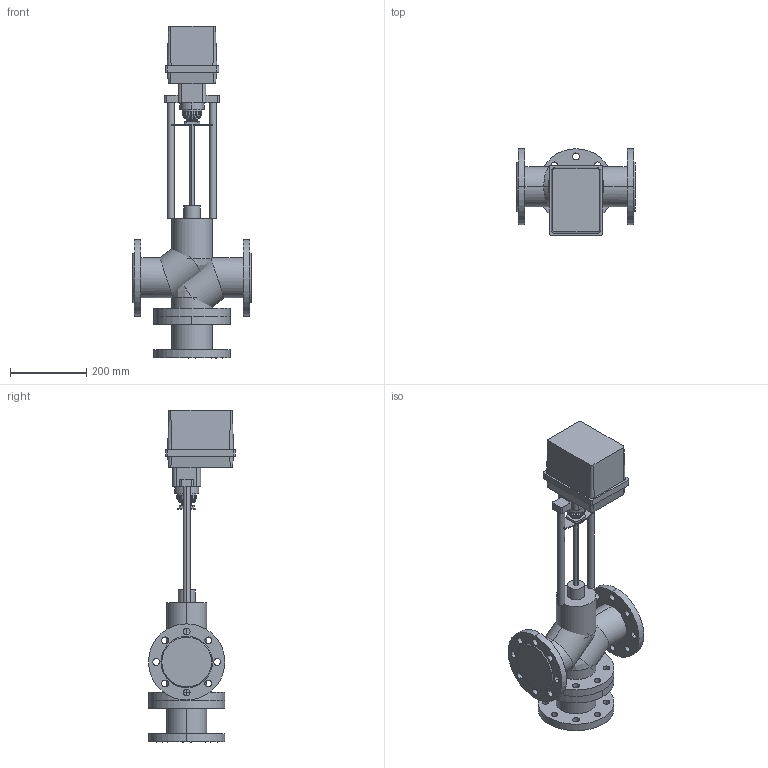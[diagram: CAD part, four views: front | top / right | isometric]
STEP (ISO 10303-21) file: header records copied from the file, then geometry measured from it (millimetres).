
FILE_DESCRIPTION(/* description */ (''),/* implementation_level */ '2;1');
FILE_NAME(/* name */ 'ТРК DN80 PN 2.5 МПа Regada ST0.1',/* time_stamp */ '2026-07-14T23:19:18+03:00',/* author */ (''),/* organization */ (''),/* preprocessor_version */ 'ST-DEVELOPER v20',/* originating_system */ '',/* authorisation */ '');
FILE_SCHEMA (('AP242_MANAGED_MODEL_BASED_3D_ENGINEERING_MIM_LF { 1 0 10303 442 1 1 4 }'));
Length unit declared in the file: millimetre
Products named in the file (16): TopLevelAssembly; Выдавливание; Модификатор; Модификатор_1; Выдавливание_
1; Выдавливание_
2; Вращение; Выдавливание_
3; Выдавливание_
4; Выдавливание_
5; Выдавливание_
6; Выдавливание_
7; Привод_Regada ST 01; Переход; Объемная геометрия 
присоединена; Объемная геометрия 
присоединена_1
Assembly tree (15 placements, depth 2):
  TopLevelAssembly
    Выдавливание
    Модификатор
    Модификатор_1
    Выдавливание_
1
    Выдавливание_
2
    Вращение
    Выдавливание_
3
    Выдавливание_
4
    Выдавливание_
5
    Выдавливание_
6
    Выдавливание_
7
    Привод_Regada ST 01
    Переход
    Объемная геометрия 
присоединена
    Объемная геометрия 
присоединена_1
Bounding box: 310 x 227.99 x 871 mm (x, y, z)
Volume: 12075547.8 mm3; surface area: 1091307.7 mm2
Topology: 25 solids, 25 shells, 289 faces, 673 edges, 428 vertices
Faces by surface type: cylinder 150, plane 93, bspline 42, cone 4
Entity records: 9716 total; most frequent: CARTESIAN_POINT 2193, DIRECTION 1592, ORIENTED_EDGE 1330, EDGE_CURVE 665, AXIS2_PLACEMENT_3D 649, VERTEX_POINT 428, EDGE_LOOP 379, CIRCLE 363
